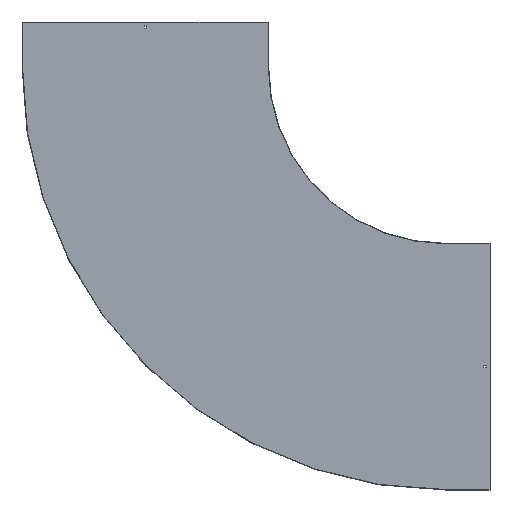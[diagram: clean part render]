
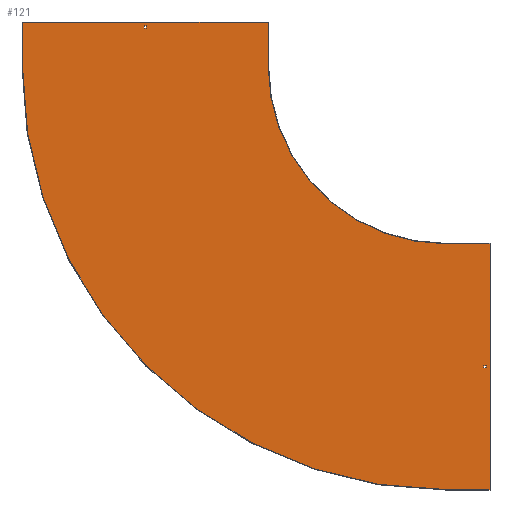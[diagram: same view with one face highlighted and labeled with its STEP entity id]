
A CAD part, front view. The second image highlights one B-rep face of the part: STEP entity #121.
In plain terms, the highlighted planar face has unit normal (0, -1, 0).
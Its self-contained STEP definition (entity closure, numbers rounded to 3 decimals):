
#2 = VECTOR ( 'NONE', #69, 1000. ) ;
#5 = PLANE ( 'NONE',  #662 ) ;
#6 = EDGE_CURVE ( 'NONE', #480, #227, #38, .T. ) ;
#7 = ORIENTED_EDGE ( 'NONE', *, *, #744, .F. ) ;
#10 = FACE_BOUND ( 'NONE', #186, .T. ) ;
#17 = DIRECTION ( 'NONE',  ( 0., -1., 0. ) ) ;
#22 = CARTESIAN_POINT ( 'NONE',  ( 129., -1.5, -996.75 ) ) ;
#25 = VERTEX_POINT ( 'NONE', #516 ) ;
#30 = DIRECTION ( 'NONE',  ( -1., 0., 0. ) ) ;
#34 = ORIENTED_EDGE ( 'NONE', *, *, #731, .F. ) ;
#38 = LINE ( 'NONE', #52, #256 ) ;
#40 = DIRECTION ( 'NONE',  ( 0., 0., -1. ) ) ;
#50 = DIRECTION ( 'NONE',  ( 1., 0., 0. ) ) ;
#51 = DIRECTION ( 'NONE',  ( 0., 0., 1. ) ) ;
#52 = CARTESIAN_POINT ( 'NONE',  ( 0., -1.5, 129. ) ) ;
#53 = ORIENTED_EDGE ( 'NONE', *, *, #655, .F. ) ;
#56 = DIRECTION ( 'NONE',  ( -1., 0., 0. ) ) ;
#61 = CARTESIAN_POINT ( 'NONE',  ( -996.75, -1.5, 138. ) ) ;
#63 = VERTEX_POINT ( 'NONE', #567 ) ;
#69 = DIRECTION ( 'NONE',  ( 0., 0., 1. ) ) ;
#74 = CARTESIAN_POINT ( 'NONE',  ( -996.75, -1.5, 129. ) ) ;
#82 = EDGE_CURVE ( 'NONE', #620, #470, #571, .T. ) ;
#103 = VERTEX_POINT ( 'NONE', #61 ) ;
#104 = CARTESIAN_POINT ( 'NONE',  ( 150., -1.5, -1410. ) ) ;
#105 = LINE ( 'NONE', #779, #323 ) ;
#110 = CARTESIAN_POINT ( 'NONE',  ( 129., -1.5, -1003.25 ) ) ;
#113 = CARTESIAN_POINT ( 'NONE',  ( -590., -1.5, 150. ) ) ;
#116 = VERTEX_POINT ( 'NONE', #469 ) ;
#121 = ADVANCED_FACE ( 'NONE', ( #10, #399, #594 ), #5, .T. ) ;
#137 = VECTOR ( 'NONE', #643, 1000. ) ;
#143 = CARTESIAN_POINT ( 'NONE',  ( 0., -1.5, -1003.25 ) ) ;
#145 = EDGE_CURVE ( 'NONE', #116, #598, #150, .T. ) ;
#150 = CIRCLE ( 'NONE', #194, 1410. ) ;
#156 = CARTESIAN_POINT ( 'NONE',  ( 129., -1.5, 0. ) ) ;
#162 = LINE ( 'NONE', #241, #137 ) ;
#186 = EDGE_LOOP ( 'NONE', ( #492, #231, #563, #455 ) ) ;
#189 = CARTESIAN_POINT ( 'NONE',  ( 138., -1.5, 0. ) ) ;
#194 = AXIS2_PLACEMENT_3D ( 'NONE', #727, #605, #474 ) ;
#227 = VERTEX_POINT ( 'NONE', #678 ) ;
#228 = CARTESIAN_POINT ( 'NONE',  ( -1411.5, -1.5, 150. ) ) ;
#231 = ORIENTED_EDGE ( 'NONE', *, *, #82, .F. ) ;
#241 = CARTESIAN_POINT ( 'NONE',  ( -996.75, -1.5, 0. ) ) ;
#246 = CARTESIAN_POINT ( 'NONE',  ( -1410., -1.5, 150. ) ) ;
#256 = VECTOR ( 'NONE', #56, 1000. ) ;
#304 = LINE ( 'NONE', #113, #362 ) ;
#309 = LINE ( 'NONE', #104, #542 ) ;
#321 = EDGE_LOOP ( 'NONE', ( #7, #466, #581, #355, #34, #510, #53, #850 ) ) ;
#323 = VECTOR ( 'NONE', #375, 1000. ) ;
#336 = CARTESIAN_POINT ( 'NONE',  ( 0., -1.5, 0. ) ) ;
#337 = CIRCLE ( 'NONE', #588, 590. ) ;
#350 = ORIENTED_EDGE ( 'NONE', *, *, #719, .T. ) ;
#352 = DIRECTION ( 'NONE',  ( 0., 0., -1. ) ) ;
#355 = ORIENTED_EDGE ( 'NONE', *, *, #798, .F. ) ;
#362 = VECTOR ( 'NONE', #443, 1000. ) ;
#366 = DIRECTION ( 'NONE',  ( 1., 0., 0. ) ) ;
#375 = DIRECTION ( 'NONE',  ( 1., 0., 0. ) ) ;
#381 = ORIENTED_EDGE ( 'NONE', *, *, #447, .T. ) ;
#382 = VERTEX_POINT ( 'NONE', #110 ) ;
#386 = VERTEX_POINT ( 'NONE', #246 ) ;
#388 = DIRECTION ( 'NONE',  ( 0., -1., 0. ) ) ;
#399 = FACE_OUTER_BOUND ( 'NONE', #321, .T. ) ;
#405 = VECTOR ( 'NONE', #828, 1000. ) ;
#407 = EDGE_CURVE ( 'NONE', #814, #63, #105, .T. ) ;
#427 = VERTEX_POINT ( 'NONE', #696 ) ;
#428 = EDGE_CURVE ( 'NONE', #227, #452, #653, .T. ) ;
#430 = LINE ( 'NONE', #445, #713 ) ;
#443 = DIRECTION ( 'NONE',  ( 0., 0., -1. ) ) ;
#445 = CARTESIAN_POINT ( 'NONE',  ( 0., -1.5, 138. ) ) ;
#447 = EDGE_CURVE ( 'NONE', #452, #103, #430, .T. ) ;
#448 = VERTEX_POINT ( 'NONE', #580 ) ;
#452 = VERTEX_POINT ( 'NONE', #838 ) ;
#453 = LINE ( 'NONE', #861, #2 ) ;
#455 = ORIENTED_EDGE ( 'NONE', *, *, #768, .F. ) ;
#457 = LINE ( 'NONE', #525, #602 ) ;
#466 = ORIENTED_EDGE ( 'NONE', *, *, #523, .F. ) ;
#469 = CARTESIAN_POINT ( 'NONE',  ( 0., -1.5, -1410. ) ) ;
#470 = VERTEX_POINT ( 'NONE', #857 ) ;
#474 = DIRECTION ( 'NONE',  ( 0., 0., -1. ) ) ;
#476 = VECTOR ( 'NONE', #585, 1000. ) ;
#480 = VERTEX_POINT ( 'NONE', #74 ) ;
#492 = ORIENTED_EDGE ( 'NONE', *, *, #509, .F. ) ;
#499 = CARTESIAN_POINT ( 'NONE',  ( -1003.25, -1.5, 0. ) ) ;
#508 = CARTESIAN_POINT ( 'NONE',  ( 0., -1.5, -590. ) ) ;
#509 = EDGE_CURVE ( 'NONE', #470, #683, #457, .T. ) ;
#510 = ORIENTED_EDGE ( 'NONE', *, *, #407, .F. ) ;
#514 = LINE ( 'NONE', #700, #631 ) ;
#516 = CARTESIAN_POINT ( 'NONE',  ( 150., -1.5, -1410. ) ) ;
#523 = EDGE_CURVE ( 'NONE', #598, #386, #453, .T. ) ;
#525 = CARTESIAN_POINT ( 'NONE',  ( 0., -1.5, -996.75 ) ) ;
#529 = DIRECTION ( 'NONE',  ( 0., 0., -1. ) ) ;
#539 = LINE ( 'NONE', #143, #739 ) ;
#542 = VECTOR ( 'NONE', #30, 1000. ) ;
#555 = CARTESIAN_POINT ( 'NONE',  ( 0., -1.5, 0. ) ) ;
#563 = ORIENTED_EDGE ( 'NONE', *, *, #626, .F. ) ;
#567 = CARTESIAN_POINT ( 'NONE',  ( 150., -1.5, -590. ) ) ;
#571 = LINE ( 'NONE', #189, #476 ) ;
#580 = CARTESIAN_POINT ( 'NONE',  ( -590., -1.5, 150. ) ) ;
#581 = ORIENTED_EDGE ( 'NONE', *, *, #145, .F. ) ;
#585 = DIRECTION ( 'NONE',  ( 0., 0., 1. ) ) ;
#588 = AXIS2_PLACEMENT_3D ( 'NONE', #555, #17, #352 ) ;
#594 = FACE_BOUND ( 'NONE', #691, .T. ) ;
#598 = VERTEX_POINT ( 'NONE', #741 ) ;
#602 = VECTOR ( 'NONE', #726, 1000. ) ;
#605 = DIRECTION ( 'NONE',  ( 0., 1., 0. ) ) ;
#620 = VERTEX_POINT ( 'NONE', #684 ) ;
#626 = EDGE_CURVE ( 'NONE', #382, #620, #539, .T. ) ;
#631 = VECTOR ( 'NONE', #40, 1000. ) ;
#643 = DIRECTION ( 'NONE',  ( 0., 0., -1. ) ) ;
#653 = LINE ( 'NONE', #499, #738 ) ;
#655 = EDGE_CURVE ( 'NONE', #427, #814, #337, .T. ) ;
#662 = AXIS2_PLACEMENT_3D ( 'NONE', #336, #388, #529 ) ;
#674 = DIRECTION ( 'NONE',  ( 1., 0., 0. ) ) ;
#678 = CARTESIAN_POINT ( 'NONE',  ( -1003.25, -1.5, 129. ) ) ;
#683 = VERTEX_POINT ( 'NONE', #22 ) ;
#684 = CARTESIAN_POINT ( 'NONE',  ( 138., -1.5, -1003.25 ) ) ;
#691 = EDGE_LOOP ( 'NONE', ( #381, #350, #725, #735 ) ) ;
#696 = CARTESIAN_POINT ( 'NONE',  ( -590., -1.5, 0. ) ) ;
#700 = CARTESIAN_POINT ( 'NONE',  ( 150., -1.5, -588.5 ) ) ;
#710 = LINE ( 'NONE', #228, #856 ) ;
#713 = VECTOR ( 'NONE', #366, 1000. ) ;
#719 = EDGE_CURVE ( 'NONE', #103, #480, #162, .T. ) ;
#725 = ORIENTED_EDGE ( 'NONE', *, *, #6, .T. ) ;
#726 = DIRECTION ( 'NONE',  ( -1., 0., 0. ) ) ;
#727 = CARTESIAN_POINT ( 'NONE',  ( 0., -1.5, 0. ) ) ;
#731 = EDGE_CURVE ( 'NONE', #63, #25, #514, .T. ) ;
#735 = ORIENTED_EDGE ( 'NONE', *, *, #428, .T. ) ;
#738 = VECTOR ( 'NONE', #51, 1000. ) ;
#739 = VECTOR ( 'NONE', #674, 1000. ) ;
#741 = CARTESIAN_POINT ( 'NONE',  ( -1410., -1.5, 0. ) ) ;
#744 = EDGE_CURVE ( 'NONE', #386, #448, #710, .T. ) ;
#745 = EDGE_CURVE ( 'NONE', #448, #427, #304, .T. ) ;
#768 = EDGE_CURVE ( 'NONE', #683, #382, #837, .T. ) ;
#779 = CARTESIAN_POINT ( 'NONE',  ( 0., -1.5, -590. ) ) ;
#798 = EDGE_CURVE ( 'NONE', #25, #116, #309, .T. ) ;
#814 = VERTEX_POINT ( 'NONE', #508 ) ;
#828 = DIRECTION ( 'NONE',  ( 0., 0., -1. ) ) ;
#837 = LINE ( 'NONE', #156, #405 ) ;
#838 = CARTESIAN_POINT ( 'NONE',  ( -1003.25, -1.5, 138. ) ) ;
#850 = ORIENTED_EDGE ( 'NONE', *, *, #745, .F. ) ;
#856 = VECTOR ( 'NONE', #50, 1000. ) ;
#857 = CARTESIAN_POINT ( 'NONE',  ( 138., -1.5, -996.75 ) ) ;
#861 = CARTESIAN_POINT ( 'NONE',  ( -1410., -1.5, 0. ) ) ;
